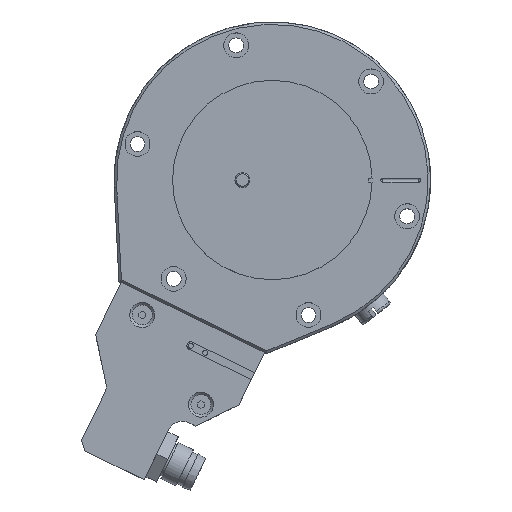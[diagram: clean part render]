
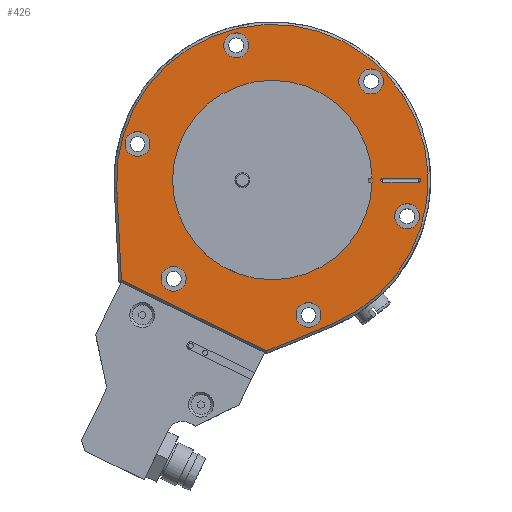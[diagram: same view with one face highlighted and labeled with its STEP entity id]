
A CAD part, top view. The second image highlights one B-rep face of the part: STEP entity #426.
In plain terms, the highlighted planar face has unit normal (0, 0, 1).
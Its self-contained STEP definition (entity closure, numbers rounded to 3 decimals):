
#426 = ADVANCED_FACE( '', ( #1382, #1383, #1384, #1385, #1386, #1387, #1388, #1389, #1390 ), #1391, .T. );
#1382 = FACE_BOUND( '', #2560, .T. );
#1383 = FACE_BOUND( '', #2561, .T. );
#1384 = FACE_BOUND( '', #2562, .T. );
#1385 = FACE_BOUND( '', #2563, .T. );
#1386 = FACE_BOUND( '', #2564, .T. );
#1387 = FACE_BOUND( '', #2565, .T. );
#1388 = FACE_BOUND( '', #2566, .T. );
#1389 = FACE_OUTER_BOUND( '', #2567, .T. );
#1390 = FACE_BOUND( '', #2568, .T. );
#1391 = PLANE( '', #2569 );
#2560 = EDGE_LOOP( '', ( #5285 ) );
#2561 = EDGE_LOOP( '', ( #5286 ) );
#2562 = EDGE_LOOP( '', ( #5287 ) );
#2563 = EDGE_LOOP( '', ( #5288 ) );
#2564 = EDGE_LOOP( '', ( #5289 ) );
#2565 = EDGE_LOOP( '', ( #5290 ) );
#2566 = EDGE_LOOP( '', ( #5291 ) );
#2567 = EDGE_LOOP( '', ( #5292, #5293, #5294, #5295 ) );
#2568 = EDGE_LOOP( '', ( #5296, #5297, #5298, #5299 ) );
#2569 = AXIS2_PLACEMENT_3D( '', #5300, #5301, #5302 );
#5285 = ORIENTED_EDGE( '', *, *, #6618, .T. );
#5286 = ORIENTED_EDGE( '', *, *, #6720, .T. );
#5287 = ORIENTED_EDGE( '', *, *, #6721, .T. );
#5288 = ORIENTED_EDGE( '', *, *, #6722, .T. );
#5289 = ORIENTED_EDGE( '', *, *, #6723, .T. );
#5290 = ORIENTED_EDGE( '', *, *, #6724, .T. );
#5291 = ORIENTED_EDGE( '', *, *, #6601, .T. );
#5292 = ORIENTED_EDGE( '', *, *, #6725, .T. );
#5293 = ORIENTED_EDGE( '', *, *, #6595, .T. );
#5294 = ORIENTED_EDGE( '', *, *, #6726, .T. );
#5295 = ORIENTED_EDGE( '', *, *, #6727, .T. );
#5296 = ORIENTED_EDGE( '', *, *, #6728, .T. );
#5297 = ORIENTED_EDGE( '', *, *, #6729, .T. );
#5298 = ORIENTED_EDGE( '', *, *, #6730, .T. );
#5299 = ORIENTED_EDGE( '', *, *, #6731, .T. );
#5300 = CARTESIAN_POINT( '', ( 0., 0., 0. ) );
#5301 = DIRECTION( '', ( 0., 0., 1. ) );
#5302 = DIRECTION( '', ( 1., 0., 0. ) );
#6595 = EDGE_CURVE( '', #8305, #8312, #8314, .T. );
#6601 = EDGE_CURVE( '', #8325, #8325, #8326, .T. );
#6618 = EDGE_CURVE( '', #8357, #8357, #8358, .T. );
#6720 = EDGE_CURVE( '', #8527, #8527, #8528, .T. );
#6721 = EDGE_CURVE( '', #8529, #8529, #8530, .T. );
#6722 = EDGE_CURVE( '', #8531, #8531, #8532, .T. );
#6723 = EDGE_CURVE( '', #8533, #8533, #8534, .T. );
#6724 = EDGE_CURVE( '', #8535, #8535, #8536, .T. );
#6725 = EDGE_CURVE( '', #8537, #8305, #8538, .T. );
#6726 = EDGE_CURVE( '', #8312, #8539, #8540, .T. );
#6727 = EDGE_CURVE( '', #8539, #8537, #8541, .T. );
#6728 = EDGE_CURVE( '', #8542, #8543, #8544, .T. );
#6729 = EDGE_CURVE( '', #8543, #8545, #8546, .T. );
#6730 = EDGE_CURVE( '', #8545, #8547, #8548, .T. );
#6731 = EDGE_CURVE( '', #8547, #8542, #8549, .T. );
#8305 = VERTEX_POINT( '', #10615 );
#8312 = VERTEX_POINT( '', #10626 );
#8314 = LINE( '', #10629, #10630 );
#8325 = VERTEX_POINT( '', #10676 );
#8326 = CIRCLE( '', #10677, 2.5 );
#8357 = VERTEX_POINT( '', #10845 );
#8358 = CIRCLE( '', #10846, 18.5 );
#8527 = VERTEX_POINT( '', #11045 );
#8528 = CIRCLE( '', #11046, 2.5 );
#8529 = VERTEX_POINT( '', #11047 );
#8530 = CIRCLE( '', #11048, 2.5 );
#8531 = VERTEX_POINT( '', #11049 );
#8532 = CIRCLE( '', #11050, 2.5 );
#8533 = VERTEX_POINT( '', #11051 );
#8534 = CIRCLE( '', #11052, 2.5 );
#8535 = VERTEX_POINT( '', #11053 );
#8536 = CIRCLE( '', #11054, 2.5 );
#8537 = VERTEX_POINT( '', #11055 );
#8538 = LINE( '', #11056, #11057 );
#8539 = VERTEX_POINT( '', #11058 );
#8540 = LINE( '', #11059, #11060 );
#8541 = CIRCLE( '', #11061, 31.25 );
#8542 = VERTEX_POINT( '', #11062 );
#8543 = VERTEX_POINT( '', #11063 );
#8544 = LINE( '', #11064, #11065 );
#8545 = VERTEX_POINT( '', #11066 );
#8546 = CIRCLE( '', #11067, 0.4 );
#8547 = VERTEX_POINT( '', #11068 );
#8548 = LINE( '', #11069, #11070 );
#8549 = CIRCLE( '', #11071, 0.4 );
#10615 = CARTESIAN_POINT( '', ( -30.286, -19.997, 0. ) );
#10626 = CARTESIAN_POINT( '', ( -1.093, -34.236, 0. ) );
#10629 = CARTESIAN_POINT( '', ( -13.699, -28.087, 0. ) );
#10630 = VECTOR( '', #12396, 1000. );
#10676 = CARTESIAN_POINT( '', ( -27.046, 4.747, 0. ) );
#10677 = AXIS2_PLACEMENT_3D( '', #12409, #12410, #12411 );
#10845 = CARTESIAN_POINT( '', ( -18.5, 0., 0. ) );
#10846 = AXIS2_PLACEMENT_3D( '', #12441, #12442, #12443 );
#11045 = CARTESIAN_POINT( '', ( -7.247, 24.546, 0. ) );
#11046 = AXIS2_PLACEMENT_3D( '', #12678, #12679, #12680 );
#11047 = CARTESIAN_POINT( '', ( 19.799, 17.299, 0. ) );
#11048 = AXIS2_PLACEMENT_3D( '', #12681, #12682, #12683 );
#11049 = CARTESIAN_POINT( '', ( 27.046, -9.747, 0. ) );
#11050 = AXIS2_PLACEMENT_3D( '', #12684, #12685, #12686 );
#11051 = CARTESIAN_POINT( '', ( 7.247, -29.546, 0. ) );
#11052 = AXIS2_PLACEMENT_3D( '', #12687, #12688, #12689 );
#11053 = CARTESIAN_POINT( '', ( -19.799, -22.299, 0. ) );
#11054 = AXIS2_PLACEMENT_3D( '', #12690, #12691, #12692 );
#11055 = CARTESIAN_POINT( '', ( -31.211, -1.566, 0. ) );
#11056 = CARTESIAN_POINT( '', ( -31.211, -1.566, 0. ) );
#11057 = VECTOR( '', #12693, 1000. );
#11058 = CARTESIAN_POINT( '', ( 11.88, -28.904, 0. ) );
#11059 = CARTESIAN_POINT( '', ( 11.88, -28.904, 0. ) );
#11060 = VECTOR( '', #12694, 1000. );
#11061 = AXIS2_PLACEMENT_3D( '', #12695, #12696, #12697 );
#11062 = CARTESIAN_POINT( '', ( 29.35, -0.4, 0. ) );
#11063 = CARTESIAN_POINT( '', ( 22.15, -0.4, 0. ) );
#11064 = CARTESIAN_POINT( '', ( 0., -0.4, 0. ) );
#11065 = VECTOR( '', #12698, 1000. );
#11066 = CARTESIAN_POINT( '', ( 22.15, 0.4, 0. ) );
#11067 = AXIS2_PLACEMENT_3D( '', #12699, #12700, #12701 );
#11068 = CARTESIAN_POINT( '', ( 29.35, 0.4, 0. ) );
#11069 = CARTESIAN_POINT( '', ( 0., 0.4, 0. ) );
#11070 = VECTOR( '', #12702, 1000. );
#11071 = AXIS2_PLACEMENT_3D( '', #12703, #12704, #12705 );
#12396 = DIRECTION( '', ( 0.899, -0.438, 0. ) );
#12409 = CARTESIAN_POINT( '', ( -27.046, 7.247, 0. ) );
#12410 = DIRECTION( '', ( 0., 0., -1. ) );
#12411 = DIRECTION( '', ( 0., -1., 0. ) );
#12441 = CARTESIAN_POINT( '', ( 0., 0., 0. ) );
#12442 = DIRECTION( '', ( 0., 0., -1. ) );
#12443 = DIRECTION( '', ( -1., 0., 0. ) );
#12678 = CARTESIAN_POINT( '', ( -7.247, 27.046, 0. ) );
#12679 = DIRECTION( '', ( 0., 0., -1. ) );
#12680 = DIRECTION( '', ( 0., -1., 0. ) );
#12681 = CARTESIAN_POINT( '', ( 19.799, 19.799, 0. ) );
#12682 = DIRECTION( '', ( 0., 0., -1. ) );
#12683 = DIRECTION( '', ( 0., -1., 0. ) );
#12684 = CARTESIAN_POINT( '', ( 27.046, -7.247, 0. ) );
#12685 = DIRECTION( '', ( 0., 0., -1. ) );
#12686 = DIRECTION( '', ( 0., -1., 0. ) );
#12687 = CARTESIAN_POINT( '', ( 7.247, -27.046, 0. ) );
#12688 = DIRECTION( '', ( 0., 0., -1. ) );
#12689 = DIRECTION( '', ( 0., -1., 0. ) );
#12690 = CARTESIAN_POINT( '', ( -19.799, -19.799, 0. ) );
#12691 = DIRECTION( '', ( 0., 0., -1. ) );
#12692 = DIRECTION( '', ( 0., -1., 0. ) );
#12693 = DIRECTION( '', ( 0.05, -0.999, 0. ) );
#12694 = DIRECTION( '', ( 0.925, 0.38, 0. ) );
#12695 = CARTESIAN_POINT( '', ( 0., 0., 0. ) );
#12696 = DIRECTION( '', ( 0., 0., 1. ) );
#12697 = DIRECTION( '', ( 1., 0., 0. ) );
#12698 = DIRECTION( '', ( -1., 0., 0. ) );
#12699 = CARTESIAN_POINT( '', ( 22.15, 0., 0. ) );
#12700 = DIRECTION( '', ( 0., 0., -1. ) );
#12701 = DIRECTION( '', ( -1., 0., 0. ) );
#12702 = DIRECTION( '', ( 1., 0., 0. ) );
#12703 = CARTESIAN_POINT( '', ( 29.35, 0., 0. ) );
#12704 = DIRECTION( '', ( 0., 0., -1. ) );
#12705 = DIRECTION( '', ( -1., 0., 0. ) );
